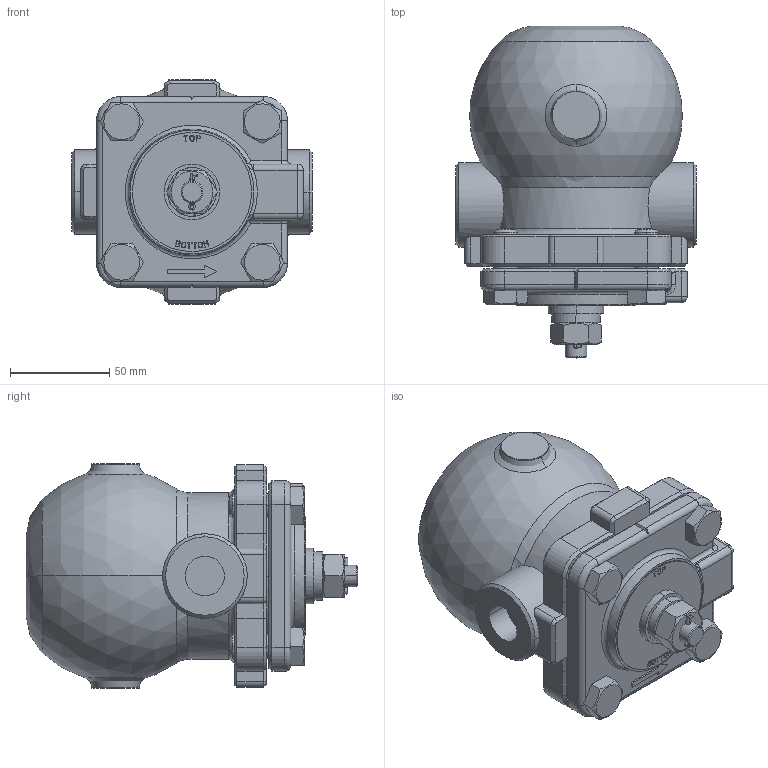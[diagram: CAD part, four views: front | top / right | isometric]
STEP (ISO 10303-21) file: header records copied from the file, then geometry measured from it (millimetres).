
FILE_DESCRIPTION( (''), '2;1');
FILE_NAME ('PC1027.9516.TSF-10　15A_9481.stp','2025-07-30T15:57:25',(''),(''),'spGate 20.6.3 (****-****-****-****)','','');
FILE_SCHEMA (('AUTOMOTIVE_DESIGN'));
Length unit declared in the file: millimetre
Products named in the file (3): Assembly; TSF-10　15A_M1; TSF-10　15A_M2
Assembly tree (2 placements, depth 2):
  Assembly
    TSF-10　15A_M1
    TSF-10　15A_M2
Bounding box: 121 x 167 x 113 mm (x, y, z)
Volume: 1074860.8 mm3; surface area: 84038.5 mm2
Topology: 2 solids, 2 shells, 474 faces, 1200 edges, 756 vertices
Faces by surface type: plane 240, bspline 119, cylinder 111, sphere 4
Entity records: 25900 total; most frequent: CARTESIAN_POINT 5791, ORIENTED_EDGE 2396, DIRECTION 1933, COLOUR_RGB 1674, PRESENTATION_STYLE_ASSIGNMENT 1674, STYLED_ITEM 1674, EDGE_CURVE 1198, DRAUGHTING_PRE_DEFINED_CURVE_FONT 1198
